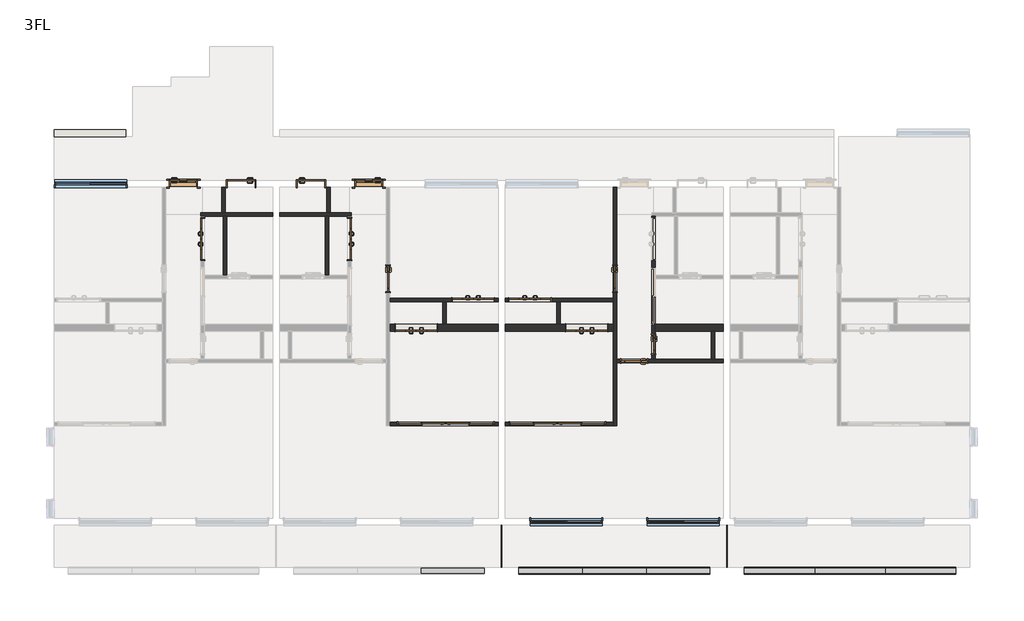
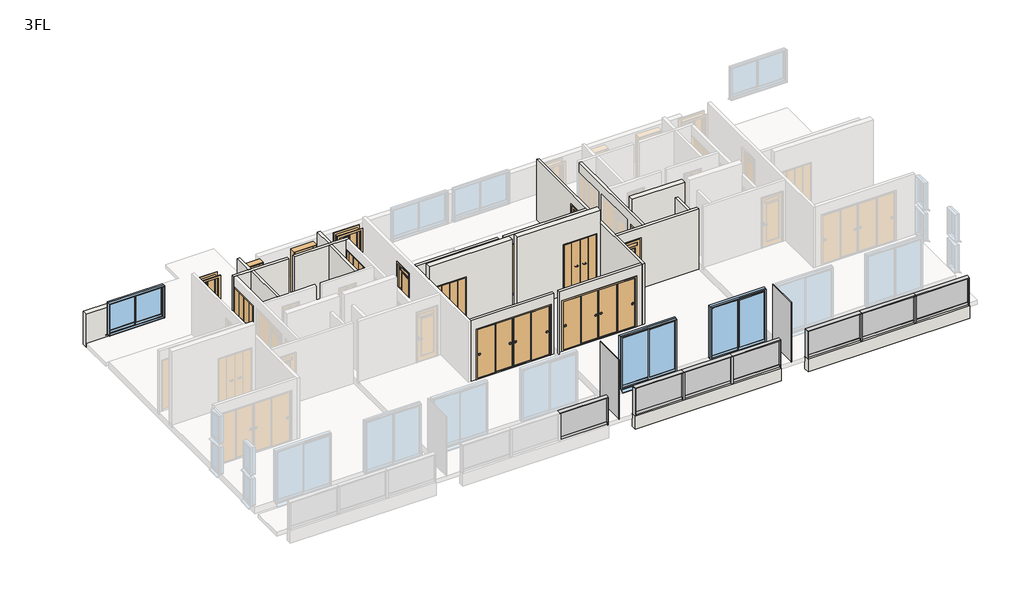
# One storey, part 2 of 3: 22 walls, 16 doors, 16 members, 9 plates, 3 windows.
"""IFC4 building model written with IfcOpenShell, lengths in millimetres."""

from ifc_helpers import new_model, si_unit, frame, origin, place, context, project, spatial, polyline, outline, extrude, faceted_brep, transform, mapped, element, save
from components import door_800x2000_a7d1584b, door_800x2000_010bfebf, w1200h2000_6a144d60, w1200h2000_98cacc9b, w1200h2000_99d19fb3, w1200h2000_ebe1d490, w2800h2000_670b855b, w2800h2000_04aa64cd, w600h2000_7f2747f4, w800h2000_1d97c4d4, w800h2000_13e9f519, w800h2000_ccb03061, w800h2000_0ab7d42c, member_25x150_3f8205e2, member_25x150_f694351b, member_25x150_e95393f9, member_70x150_851c8a9b, plate_9f48129f, plate_365944b3, plate_b830f844, plate_2f85ae4c, plate_cef4847d, window_2000x1200_fc91d1cf, window_2000x2000_f1ff98da

model = new_model("IFC4")

# Units and contexts
model_context = context("Model", 3, world=origin())
ifc_project = project(units=[si_unit("LENGTHUNIT", "METRE", prefix="MILLI")], contexts=[model_context])

# Site, building, storey
site = spatial("IfcSite", under=ifc_project)
building = spatial("IfcBuilding", under=site)
storey = spatial("IfcBuildingStorey", under=building, Name="3FL", Elevation=7000.0)

# Doors
placement = place(None, origin())
door_800x2000_shape = door_800x2000_a7d1584b(model_context)
element("IfcDoor", 1, ObjectType="片開き3 : 800x2000", at=placement, inside=storey, context=model_context, shape_type="MappedRepresentation", body=[
    mapped(door_800x2000_shape, transform((-7378.7187246, -5700.1171638, 7000.0), x_axis=(1.0, 0.0, 0.0), y_axis=(0.0, 1.0, 0.0), z_axis=(0.0, 0.0, 1.0))),
])
door_800x2000_2_shape = door_800x2000_010bfebf(model_context)
element("IfcDoor", 2, ObjectType="片開き3 : 800x2000", at=placement, inside=storey, context=model_context, shape_type="MappedRepresentation", body=[
    mapped(door_800x2000_2_shape, transform((-2078.7187246, -5700.1171638, 7000.0), x_axis=(-1.0, 0.0, 0.0), y_axis=(0.0, -1.0, 0.0), z_axis=(0.0, 0.0, 1.0))),
])
w1200h2000_shape = w1200h2000_6a144d60(model_context)
element("IfcDoor", 3, ObjectType="木製折戸 : w1200h2000", at=placement, inside=storey, context=model_context, shape_type="MappedRepresentation", body=[
    mapped(w1200h2000_shape, transform((-6828.7187246, -7280.1171638, 7100.0), x_axis=(0.0, 1.0, 0.0), y_axis=(-1.0, 0.0, 0.0), z_axis=(0.0, 0.0, 1.0))),
])
element("IfcDoor", 4, ObjectType="木製折戸 : w1200h2000", at=placement, inside=storey, context=model_context, shape_type="MappedRepresentation", body=[
    mapped(w1200h2000_shape, transform((2533.7812754, -9020.1171638, 7100.0), x_axis=(1.0, 0.0, 0.0), y_axis=(0.0, 1.0, 0.0), z_axis=(0.0, 0.0, 1.0))),
])
w1200h2000_2_shape = w1200h2000_98cacc9b(model_context)
element("IfcDoor", 5, ObjectType="木製折戸 : w1200h2000", at=placement, inside=storey, context=model_context, shape_type="MappedRepresentation", body=[
    mapped(w1200h2000_2_shape, transform((4158.7812754, -9820.1171638, 7100.0), x_axis=(-1.0, 0.0, 0.0), y_axis=(0.0, -1.0, 0.0), z_axis=(0.0, 0.0, 1.0))),
])
w1200h2000_3_shape = w1200h2000_99d19fb3(model_context)
element("IfcDoor", 6, ObjectType="木製折戸 : w1200h2000", at=placement, inside=storey, context=model_context, shape_type="MappedRepresentation", body=[
    mapped(w1200h2000_3_shape, transform((908.7812754, -9020.1171638, 7100.0), x_axis=(-1.0, 0.0, 0.0), y_axis=(0.0, -1.0, 0.0), z_axis=(0.0, 0.0, 1.0))),
])
element("IfcDoor", 7, ObjectType="木製折戸 : w1200h2000", at=placement, inside=storey, context=model_context, shape_type="MappedRepresentation", body=[
    mapped(w1200h2000_3_shape, transform((-2628.7187246, -7280.1171638, 7100.0), x_axis=(0.0, 1.0, 0.0), y_axis=(-1.0, 0.0, 0.0), z_axis=(0.0, 0.0, 1.0))),
])
w1200h2000_4_shape = w1200h2000_ebe1d490(model_context)
element("IfcDoor", 8, ObjectType="木製折戸 : w1200h2000", at=placement, inside=storey, context=model_context, shape_type="MappedRepresentation", body=[
    mapped(w1200h2000_4_shape, transform((-716.2187246, -9820.1171638, 7100.0), x_axis=(1.0, 0.0, 0.0), y_axis=(0.0, 1.0, 0.0), z_axis=(0.0, 0.0, 1.0))),
])
w2800h2000_shape = w2800h2000_670b855b(model_context)
element("IfcDoor", 9, ObjectType="引違い 4 枚 2 溝_襖 : w2800h2000", at=placement, inside=storey, context=model_context, shape_type="MappedRepresentation", body=[
    mapped(w2800h2000_shape, transform((3315.7457714, -12570.1171638, 7100.0), x_axis=(-1.0, 0.0, 0.0), y_axis=(0.0, -1.0, 0.0), z_axis=(0.0, 0.0, 1.0))),
])
w2800h2000_2_shape = w2800h2000_04aa64cd(model_context)
element("IfcDoor", 10, ObjectType="引違い 4 枚 2 溝_襖 : w2800h2000", at=placement, inside=storey, context=model_context, shape_type="MappedRepresentation", body=[
    mapped(w2800h2000_2_shape, transform((126.8167793, -12570.1171638, 7100.0), x_axis=(1.0, 0.0, 0.0), y_axis=(0.0, 1.0, 0.0), z_axis=(0.0, 0.0, 1.0))),
])
w600h2000_shape = w600h2000_7f2747f4(model_context)
element("IfcDoor", 11, ObjectType="片開戸CL2058 : w600h2000", at=placement, inside=storey, context=model_context, shape_type="MappedRepresentation", body=[
    mapped(w600h2000_shape, transform((6071.2812754, -10295.1171638, 7100.0), x_axis=(0.0, -1.0, 0.0), y_axis=(1.0, 0.0, 0.0), z_axis=(0.0, 0.0, 1.0))),
])
w800h2000_shape = w800h2000_1d97c4d4(model_context)
element("IfcDoor", 12, ObjectType="片開 : w800h2000", at=placement, inside=storey, context=model_context, shape_type="MappedRepresentation", body=[
    mapped(w800h2000_shape, transform((-5728.7187246, -5700.1171638, 7000.0), x_axis=(-1.0, 0.0, 0.0), y_axis=(0.0, -1.0, 0.0), z_axis=(0.0, 0.0, 1.0))),
])
w800h2000_2_shape = w800h2000_13e9f519(model_context)
element("IfcDoor", 13, ObjectType="片開戸CL2058 : w800h2000", at=placement, inside=storey, context=model_context, shape_type="MappedRepresentation", body=[
    mapped(w800h2000_2_shape, transform((4971.2812754, -8420.1171638, 7100.0), x_axis=(0.0, -1.0, 0.0), y_axis=(1.0, 0.0, 0.0), z_axis=(0.0, 0.0, 1.0))),
])
w800h2000_3_shape = w800h2000_ccb03061(model_context)
element("IfcDoor", 14, ObjectType="片開戸CL2058 : w800h2000", at=placement, inside=storey, context=model_context, shape_type="MappedRepresentation", body=[
    mapped(w800h2000_3_shape, transform((-1528.7187246, -8420.1171638, 7100.0), x_axis=(0.0, -1.0, 0.0), y_axis=(1.0, 0.0, 0.0), z_axis=(0.0, 0.0, 1.0))),
])
element("IfcDoor", 15, ObjectType="片開戸CL2058 : w800h2000", at=placement, inside=storey, context=model_context, shape_type="MappedRepresentation", body=[
    mapped(w800h2000_3_shape, transform((5521.2812754, -10770.1171638, 7100.0), x_axis=(-1.0, 0.0, 0.0), y_axis=(0.0, -1.0, 0.0), z_axis=(0.0, 0.0, 1.0))),
])
w800h2000_4_shape = w800h2000_0ab7d42c(model_context)
element("IfcDoor", 16, ObjectType="片開 : w800h2000", at=placement, inside=storey, context=model_context, shape_type="MappedRepresentation", body=[
    mapped(w800h2000_4_shape, transform((-3728.7187246, -5700.1171638, 7000.0), x_axis=(1.0, 0.0, 0.0), y_axis=(0.0, 1.0, 0.0), z_axis=(0.0, 0.0, 1.0))),
])

# Members
member_25x150_shape = member_25x150_3f8205e2(model_context)
element("IfcMember", 17, ObjectType="長方形のマリオン : 25x150", at=placement, inside=storey, context=model_context, shape_type="MappedRepresentation", body=[
    mapped(member_25x150_shape, transform((1221.2812754, -16770.1171638, 7000.0), x_axis=(1.0, 0.0, 0.0), y_axis=(0.0, -1.0, 0.0), z_axis=(0.0, 0.0, -1.0))),
])
element("IfcMember", 18, ObjectType="長方形のマリオン : 25x150", at=placement, inside=storey, context=model_context, shape_type="MappedRepresentation", body=[
    mapped(member_25x150_shape, transform((7671.2812754, -16770.1171638, 7000.0), x_axis=(1.0, 0.0, 0.0), y_axis=(0.0, -1.0, 0.0), z_axis=(0.0, 0.0, -1.0))),
])
element("IfcMember", 19, ObjectType="長方形のマリオン : 25x150", at=placement, inside=storey, context=model_context, shape_type="MappedRepresentation", body=[
    mapped(member_25x150_shape, transform((14721.2812754, -16770.1171638, 7000.0), x_axis=(1.0, 0.0, 0.0), y_axis=(0.0, -1.0, 0.0), z_axis=(0.0, 0.0, -1.0))),
])
element("IfcMember", 20, ObjectType="長方形のマリオン : 25x150", at=placement, inside=storey, context=model_context, shape_type="MappedRepresentation", body=[
    mapped(member_25x150_shape, transform((2221.2812754, -16770.1171638, 8075.0), x_axis=(-1.0, 0.0, 0.0), y_axis=(0.0, -1.0, 0.0), z_axis=(0.0, 0.0, 1.0))),
])
element("IfcMember", 21, ObjectType="長方形のマリオン : 25x150", at=placement, inside=storey, context=model_context, shape_type="MappedRepresentation", body=[
    mapped(member_25x150_shape, transform((8671.2812754, -16770.1171638, 8075.0), x_axis=(-1.0, 0.0, 0.0), y_axis=(0.0, -1.0, 0.0), z_axis=(0.0, 0.0, 1.0))),
])
member_25x150_2_shape = member_25x150_f694351b(model_context)
element("IfcMember", 22, ObjectType="長方形のマリオン : 25x150", at=placement, inside=storey, context=model_context, shape_type="MappedRepresentation", body=[
    mapped(member_25x150_2_shape, transform((1221.2812754, -16770.1171638, 8100.0), x_axis=(0.0, 0.0, 1.0), y_axis=(0.0, -1.0, 0.0), z_axis=(1.0, 0.0, 0.0))),
])
element("IfcMember", 23, ObjectType="長方形のマリオン : 25x150", at=placement, inside=storey, context=model_context, shape_type="MappedRepresentation", body=[
    mapped(member_25x150_2_shape, transform((7671.2812754, -16770.1171638, 8100.0), x_axis=(0.0, 0.0, 1.0), y_axis=(0.0, -1.0, 0.0), z_axis=(1.0, 0.0, 0.0))),
])
element("IfcMember", 24, ObjectType="長方形のマリオン : 25x150", at=placement, inside=storey, context=model_context, shape_type="MappedRepresentation", body=[
    mapped(member_25x150_2_shape, transform((4037.947942, -16770.1171638, 8100.0), x_axis=(0.0, 0.0, 1.0), y_axis=(0.0, -1.0, 0.0), z_axis=(1.0, 0.0, 0.0))),
])
element("IfcMember", 25, ObjectType="長方形のマリオン : 25x150", at=placement, inside=storey, context=model_context, shape_type="MappedRepresentation", body=[
    mapped(member_25x150_2_shape, transform((5854.6146087, -16770.1171638, 8100.0), x_axis=(0.0, 0.0, 1.0), y_axis=(0.0, -1.0, 0.0), z_axis=(1.0, 0.0, 0.0))),
])
member_25x150_3_shape = member_25x150_e95393f9(model_context)
element("IfcMember", 26, ObjectType="長方形のマリオン : 25x150", at=placement, inside=storey, context=model_context, shape_type="MappedRepresentation", body=[
    mapped(member_25x150_3_shape, transform((14721.2812754, -16770.1171638, 8100.0), x_axis=(0.0, 0.0, 1.0), y_axis=(0.0, -1.0, 0.0), z_axis=(1.0, 0.0, 0.0))),
])
element("IfcMember", 27, ObjectType="長方形のマリオン : 25x150", at=placement, inside=storey, context=model_context, shape_type="MappedRepresentation", body=[
    mapped(member_25x150_3_shape, transform((10687.947942, -16770.1171638, 8100.0), x_axis=(0.0, 0.0, 1.0), y_axis=(0.0, -1.0, 0.0), z_axis=(1.0, 0.0, 0.0))),
])
element("IfcMember", 28, ObjectType="長方形のマリオン : 25x150", at=placement, inside=storey, context=model_context, shape_type="MappedRepresentation", body=[
    mapped(member_25x150_3_shape, transform((12704.6146087, -16770.1171638, 8100.0), x_axis=(0.0, 0.0, 1.0), y_axis=(0.0, -1.0, 0.0), z_axis=(1.0, 0.0, 0.0))),
])
member_70x150_shape = member_70x150_851c8a9b(model_context)
element("IfcMember", 29, ObjectType="長方形のマリオン : 70x150", at=placement, inside=storey, context=model_context, shape_type="MappedRepresentation", body=[
    mapped(member_70x150_shape, transform((4037.947942, -16770.1171638, 7000.0), x_axis=(1.0, 0.0, 0.0), y_axis=(0.0, -1.0, 0.0), z_axis=(0.0, 0.0, -1.0))),
])
element("IfcMember", 30, ObjectType="長方形のマリオン : 70x150", at=placement, inside=storey, context=model_context, shape_type="MappedRepresentation", body=[
    mapped(member_70x150_shape, transform((5854.6146087, -16770.1171638, 7000.0), x_axis=(1.0, 0.0, 0.0), y_axis=(0.0, -1.0, 0.0), z_axis=(0.0, 0.0, -1.0))),
])
element("IfcMember", 31, ObjectType="長方形のマリオン : 70x150", at=placement, inside=storey, context=model_context, shape_type="MappedRepresentation", body=[
    mapped(member_70x150_shape, transform((10687.947942, -16770.1171638, 7000.0), x_axis=(1.0, 0.0, 0.0), y_axis=(0.0, -1.0, 0.0), z_axis=(0.0, 0.0, -1.0))),
])
element("IfcMember", 32, ObjectType="長方形のマリオン : 70x150", at=placement, inside=storey, context=model_context, shape_type="MappedRepresentation", body=[
    mapped(member_70x150_shape, transform((12704.6146087, -16770.1171638, 7000.0), x_axis=(1.0, 0.0, 0.0), y_axis=(0.0, -1.0, 0.0), z_axis=(0.0, 0.0, -1.0))),
])

# Plates
plate_shape = plate_9f48129f(model_context)
element("IfcPlate", 33, ObjectType="r パネル FIX 下框付 : 框 H100", at=placement, inside=storey, context=model_context, shape_type="MappedRepresentation", body=[
    mapped(plate_shape, transform((317.947942, -16770.1171638, 7000.0), x_axis=(1.0, 0.0, 0.0), y_axis=(0.0, 1.0, 0.0), z_axis=(0.0, 0.0, 1.0))),
])
element("IfcPlate", 34, ObjectType="r パネル FIX 下框付 : 框 H100", at=placement, inside=storey, context=model_context, shape_type="MappedRepresentation", body=[
    mapped(plate_shape, transform((3124.6146087, -16770.1171638, 7000.0), x_axis=(1.0, 0.0, 0.0), y_axis=(0.0, 1.0, 0.0), z_axis=(0.0, 0.0, 1.0))),
])
element("IfcPlate", 35, ObjectType="r パネル FIX 下框付 : 框 H100", at=placement, inside=storey, context=model_context, shape_type="MappedRepresentation", body=[
    mapped(plate_shape, transform((6767.947942, -16770.1171638, 7000.0), x_axis=(1.0, 0.0, 0.0), y_axis=(0.0, 1.0, 0.0), z_axis=(0.0, 0.0, 1.0))),
])
plate_2_shape = plate_365944b3(model_context)
element("IfcPlate", 36, ObjectType="r パネル FIX 下框付 : 框 H100", at=placement, inside=storey, context=model_context, shape_type="MappedRepresentation", body=[
    mapped(plate_2_shape, transform((4946.2812754, -16770.1171638, 7000.0), x_axis=(1.0, 0.0, 0.0), y_axis=(0.0, 1.0, 0.0), z_axis=(0.0, 0.0, 1.0))),
])
plate_3_shape = plate_b830f844(model_context)
element("IfcPlate", 37, ObjectType="r パネル FIX 下框付 : 框 H100", at=placement, inside=storey, context=model_context, shape_type="MappedRepresentation", body=[
    mapped(plate_3_shape, transform((9674.6146087, -16770.1171638, 7000.0), x_axis=(1.0, 0.0, 0.0), y_axis=(0.0, 1.0, 0.0), z_axis=(0.0, 0.0, 1.0))),
])
element("IfcPlate", 38, ObjectType="r パネル FIX 下框付 : 框 H100", at=placement, inside=storey, context=model_context, shape_type="MappedRepresentation", body=[
    mapped(plate_3_shape, transform((13717.947942, -16770.1171638, 7000.0), x_axis=(1.0, 0.0, 0.0), y_axis=(0.0, 1.0, 0.0), z_axis=(0.0, 0.0, 1.0))),
])
plate_4_shape = plate_2f85ae4c(model_context)
element("IfcPlate", 39, ObjectType="r パネル FIX 下框付 : 框 H100", at=placement, inside=storey, context=model_context, shape_type="MappedRepresentation", body=[
    mapped(plate_4_shape, transform((11696.2812754, -16770.1171638, 7000.0), x_axis=(1.0, 0.0, 0.0), y_axis=(0.0, 1.0, 0.0), z_axis=(0.0, 0.0, 1.0))),
])
plate_5_shape = plate_cef4847d(model_context)
element("IfcPlate", 40, ObjectType="システム パネル : 標準", at=placement, inside=storey, context=model_context, shape_type="MappedRepresentation", body=[
    mapped(plate_5_shape, transform((1721.2812754, -16070.1171638, 6950.0), x_axis=(0.0, -1.0, 0.0), y_axis=(1.0, 0.0, 0.0), z_axis=(0.0, 0.0, 1.0))),
])
element("IfcPlate", 41, ObjectType="システム パネル : 標準", at=placement, inside=storey, context=model_context, shape_type="MappedRepresentation", body=[
    mapped(plate_5_shape, transform((8171.2812754, -16070.1171638, 6950.0), x_axis=(0.0, -1.0, 0.0), y_axis=(1.0, 0.0, 0.0), z_axis=(0.0, 0.0, 1.0))),
])

# Walls
element("IfcWall", 42, ObjectType="(R)RC200", at=placement, inside=storey, context=model_context, shape_type="Brep", body=[
    faceted_brep([(1621.2812754, -9720.1171638, 7000.0), (146.2812754, -9720.1171638, 7000.0), (46.2812754, -9720.1171638, 7000.0), (-1478.7187246, -9720.1171638, 7000.0), (-1478.7187246, -9720.1171638, 10000.0), (1621.2812754, -9720.1171638, 10000.0), (-96.2187246, -9720.1171638, 9120.0), (-1336.2187246, -9720.1171638, 9120.0), (-1336.2187246, -9720.1171638, 7100.0), (-96.2187246, -9720.1171638, 7100.0), (1621.2812754, -9920.1171638, 7000.0), (1621.2812754, -9920.1171638, 10000.0), (-1478.7187246, -9920.1171638, 10000.0), (-1478.7187246, -9920.1171638, 7000.0), (-96.2187246, -9920.1171638, 9120.0), (-96.2187246, -9920.1171638, 7100.0), (-1336.2187246, -9920.1171638, 7100.0), (-1336.2187246, -9920.1171638, 9120.0)], [[[0, 1, 2, 3, 4, 5], [6, 7, 8, 9]], [[10, 11, 12, 13], [14, 15, 16, 17]], [[3, 2, 1, 0, 10, 13]], [[5, 4, 12, 11]], [[4, 3, 13, 12]], [[15, 14, 6, 9]], [[16, 15, 9, 8]], [[17, 16, 8, 7]], [[14, 17, 7, 6]], [[0, 5, 11, 10]]]),
])
element("IfcWall", 43, ObjectType="(R)RC200", at=placement, inside=storey, context=model_context, shape_type="Brep", body=[
    faceted_brep([(1821.2812754, -9920.1171638, 7000.0), (4921.2812754, -9920.1171638, 7000.0), (4921.2812754, -9920.1171638, 10000.0), (1821.2812754, -9920.1171638, 10000.0), (3538.7812754, -9920.1171638, 9120.0), (4778.7812754, -9920.1171638, 9120.0), (4778.7812754, -9920.1171638, 7100.0), (3538.7812754, -9920.1171638, 7100.0), (1821.2812754, -9720.1171638, 7000.0), (1821.2812754, -9720.1171638, 10000.0), (4921.2812754, -9720.1171638, 10000.0), (4921.2812754, -9720.1171638, 7000.0), (3396.2812754, -9720.1171638, 7000.0), (3296.2812754, -9720.1171638, 7000.0), (3538.7812754, -9720.1171638, 9120.0), (3538.7812754, -9720.1171638, 7100.0), (4778.7812754, -9720.1171638, 7100.0), (4778.7812754, -9720.1171638, 9120.0)], [[[0, 1, 2, 3], [4, 5, 6, 7]], [[8, 9, 10, 11, 12, 13], [14, 15, 16, 17]], [[1, 0, 8, 13, 12, 11]], [[3, 2, 10, 9]], [[2, 1, 11, 10]], [[15, 14, 4, 7]], [[16, 15, 7, 6]], [[17, 16, 6, 5]], [[14, 17, 5, 4]], [[0, 3, 9, 8]]]),
])
element("IfcWall", 44, ObjectType="(R)RC200", at=placement, inside=storey, context=model_context, shape_type="Brep", body=[
    faceted_brep([(6121.2812754, -9920.1171638, 7000.0), (7721.2812754, -9920.1171638, 7000.0), (7821.2812754, -9920.1171638, 7000.0), (8071.2812754, -9920.1171638, 7000.0), (8071.2812754, -9920.1171638, 10000.0), (6121.2812754, -9920.1171638, 10000.0), (6121.2812754, -9720.1171638, 7000.0), (6121.2812754, -9720.1171638, 10000.0), (8071.2812754, -9720.1171638, 10000.0), (8071.2812754, -9720.1171638, 7000.0)], [[[0, 1, 2, 3, 4, 5]], [[6, 7, 8, 9]], [[3, 2, 1, 0, 6, 9]], [[5, 4, 8, 7]], [[0, 5, 7, 6]], [[4, 3, 9, 8]]]),
])
element("IfcWall", 45, ObjectType="(R)RC200", at=placement, inside=storey, context=model_context, shape_type="SweptSolid", body=[
    extrude(outline(polyline([(-9028.7187246, -4350.1171638), (-11078.7187246, -4350.1171638), (-11078.7187246, -4150.1171638), (-9028.7187246, -4150.1171638), (-9028.7187246, -4350.1171638)])), frame((0.0, 0.0, 6800.0), z_axis=(0.0, 0.0, 1.0), x_axis=(1.0, 0.0, 0.0)), (0.0, 0.0, 1.0), 1300.0),
])
element("IfcWall", 46, ObjectType="(R)RC200", at=placement, inside=storey, context=model_context, shape_type="SweptSolid", body=[
    extrude(outline(polyline([(7671.2812754, -16870.1171638), (2221.2812754, -16870.1171638), (2221.2812754, -16670.1171638), (7671.2812754, -16670.1171638), (7671.2812754, -16870.1171638)])), frame((0.0, 0.0, 6500.0), z_axis=(0.0, 0.0, 1.0), x_axis=(1.0, 0.0, 0.0)), (0.0, 0.0, 1.0), 500.0),
])
element("IfcWall", 47, ObjectType="(R)RC200", at=placement, inside=storey, context=model_context, shape_type="SweptSolid", body=[
    extrude(outline(polyline([(14721.2812754, -16870.1171638), (8671.2812754, -16870.1171638), (8671.2812754, -16670.1171638), (14721.2812754, -16670.1171638), (14721.2812754, -16870.1171638)])), frame((0.0, 0.0, 6500.0), z_axis=(0.0, 0.0, 1.0), x_axis=(1.0, 0.0, 0.0)), (0.0, 0.0, 1.0), 500.0),
])
element("IfcWall", 48, ObjectType="(L1)LGS100", at=placement, inside=storey, context=model_context, shape_type="Brep", body=[
    faceted_brep([(-6878.7187246, -6630.1171638, 7000.0), (-6778.7187246, -6630.1171638, 7000.0), (-6238.7187246, -6630.1171638, 7000.0), (-6138.7187246, -6630.1171638, 7000.0), (-4828.7187246, -6630.1171638, 7000.0), (-4828.7187246, -6630.1171638, 9500.0), (-6138.7187246, -6630.1171638, 9500.0), (-6238.7187246, -6630.1171638, 9500.0), (-6778.7187246, -6630.1171638, 9500.0), (-6878.7187246, -6630.1171638, 9500.0), (-6878.7187246, -6530.1171638, 7000.0), (-6878.7187246, -6530.1171638, 9500.0), (-6278.7187246, -6530.1171638, 9500.0), (-6178.7187246, -6530.1171638, 9500.0), (-4828.7187246, -6530.1171638, 9500.0), (-4828.7187246, -6530.1171638, 7000.0), (-6178.7187246, -6530.1171638, 7000.0), (-6278.7187246, -6530.1171638, 7000.0)], [[[0, 1, 2, 3, 4, 5, 6, 7, 8, 9]], [[10, 11, 12, 13, 14, 15, 16, 17]], [[4, 3, 2, 1, 0, 10, 17, 16, 15]], [[9, 8, 7, 6, 5, 14, 13, 12, 11]], [[0, 9, 11, 10]], [[5, 4, 15, 14]]]),
])
element("IfcWall", 49, ObjectType="(L1)LGS100", at=placement, inside=storey, context=model_context, shape_type="SweptSolid", body=[
    extrude(outline(polyline([(-6178.7187246, -5800.1171638), (-6178.7187246, -6530.1171638), (-6278.7187246, -6530.1171638), (-6278.7187246, -5800.1171638), (-6178.7187246, -5800.1171638)])), frame((0.0, 0.0, 7000.0), z_axis=(0.0, 0.0, 1.0), x_axis=(1.0, 0.0, 0.0)), (0.0, 0.0, 1.0), 2500.0),
])
element("IfcWall", 50, ObjectType="(L1)LGS100", at=placement, inside=storey, context=model_context, shape_type="SweptSolid", body=[
    extrude(outline(polyline([(-6138.7187246, -6630.1171638), (-6138.7187246, -8320.1171638), (-6238.7187246, -8320.1171638), (-6238.7187246, -6630.1171638), (-6138.7187246, -6630.1171638)])), frame((0.0, 0.0, 7000.0), z_axis=(0.0, 0.0, 1.0), x_axis=(1.0, 0.0, 0.0)), (0.0, 0.0, 1.0), 2500.0),
])
element("IfcWall", 51, ObjectType="(L1)LGS100", at=placement, inside=storey, context=model_context, shape_type="Brep", body=[
    faceted_brep([(1621.2812754, -8970.1171638, 7000.0), (-1478.7187246, -8970.1171638, 7000.0), (-1478.7187246, -8970.1171638, 9500.0), (1621.2812754, -8970.1171638, 9500.0), (288.7812754, -8970.1171638, 9120.0), (288.7812754, -8970.1171638, 7100.0), (1528.7812754, -8970.1171638, 7100.0), (1528.7812754, -8970.1171638, 9120.0), (-1478.7187246, -9070.1171638, 7000.0), (46.2812754, -9070.1171638, 7000.0), (146.2812754, -9070.1171638, 7000.0), (1621.2812754, -9070.1171638, 7000.0), (1621.2812754, -9070.1171638, 9500.0), (146.2812754, -9070.1171638, 9500.0), (46.2812754, -9070.1171638, 9500.0), (-1478.7187246, -9070.1171638, 9500.0), (288.7812754, -9070.1171638, 7100.0), (288.7812754, -9070.1171638, 9120.0), (1528.7812754, -9070.1171638, 9120.0), (1528.7812754, -9070.1171638, 7100.0)], [[[0, 1, 2, 3], [4, 5, 6, 7]], [[8, 9, 10, 11, 12, 13, 14, 15], [16, 17, 18, 19]], [[1, 0, 11, 10, 9, 8]], [[3, 2, 15, 14, 13, 12]], [[2, 1, 8, 15]], [[4, 17, 16, 5]], [[5, 16, 19, 6]], [[17, 4, 7, 18]], [[18, 7, 6, 19]], [[0, 3, 12, 11]]]),
])
element("IfcWall", 52, ObjectType="(L1)LGS100", at=placement, inside=storey, context=model_context, shape_type="SweptSolid", body=[
    extrude(outline(polyline([(146.2812754, -9070.1171638), (146.2812754, -9720.1171638), (46.2812754, -9720.1171638), (46.2812754, -9070.1171638), (146.2812754, -9070.1171638)])), frame((0.0, 0.0, 7000.0), z_axis=(0.0, 0.0, 1.0), x_axis=(1.0, 0.0, 0.0)), (0.0, 0.0, 1.0), 2500.0),
])
element("IfcWall", 53, ObjectType="(L1)LGS100", at=placement, inside=storey, context=model_context, shape_type="Brep", body=[
    faceted_brep([(-2578.7187246, -6530.1171638, 7000.0), (-3178.7187246, -6530.1171638, 7000.0), (-3278.7187246, -6530.1171638, 7000.0), (-4628.7187246, -6530.1171638, 7000.0), (-4628.7187246, -6530.1171638, 9500.0), (-3278.7187246, -6530.1171638, 9500.0), (-3178.7187246, -6530.1171638, 9500.0), (-2578.7187246, -6530.1171638, 9500.0), (-2578.7187246, -6630.1171638, 7000.0), (-2578.7187246, -6630.1171638, 9500.0), (-2678.7187246, -6630.1171638, 9500.0), (-3218.7187246, -6630.1171638, 9500.0), (-3318.7187246, -6630.1171638, 9500.0), (-4628.7187246, -6630.1171638, 9500.0), (-4628.7187246, -6630.1171638, 7000.0), (-3318.7187246, -6630.1171638, 7000.0), (-3218.7187246, -6630.1171638, 7000.0), (-2678.7187246, -6630.1171638, 7000.0)], [[[0, 1, 2, 3, 4, 5, 6, 7]], [[8, 9, 10, 11, 12, 13, 14, 15, 16, 17]], [[3, 2, 1, 0, 8, 17, 16, 15, 14]], [[7, 6, 5, 4, 13, 12, 11, 10, 9]], [[0, 7, 9, 8]], [[4, 3, 14, 13]]]),
])
element("IfcWall", 54, ObjectType="(L1)LGS100", at=placement, inside=storey, context=model_context, shape_type="SweptSolid", body=[
    extrude(outline(polyline([(-3178.7187246, -5800.1171638), (-3178.7187246, -6530.1171638), (-3278.7187246, -6530.1171638), (-3278.7187246, -5800.1171638), (-3178.7187246, -5800.1171638)])), frame((0.0, 0.0, 7000.0), z_axis=(0.0, 0.0, 1.0), x_axis=(1.0, 0.0, 0.0)), (0.0, 0.0, 1.0), 2500.0),
])
element("IfcWall", 55, ObjectType="(L1)LGS100", at=placement, inside=storey, context=model_context, shape_type="SweptSolid", body=[
    extrude(outline(polyline([(-3218.7187246, -6630.1171638), (-3218.7187246, -8320.1171638), (-3318.7187246, -8320.1171638), (-3318.7187246, -6630.1171638), (-3218.7187246, -6630.1171638)])), frame((0.0, 0.0, 7000.0), z_axis=(0.0, 0.0, 1.0), x_axis=(1.0, 0.0, 0.0)), (0.0, 0.0, 1.0), 2500.0),
])
element("IfcWall", 56, ObjectType="(L1)LGS100", at=placement, inside=storey, context=model_context, shape_type="SweptSolid", body=[
    extrude(outline(polyline([(7000.0, 1621.2812754), (9500.0, 1621.2812754), (9500.0, -1478.7187246), (7000.0, -1478.7187246), (7000.0, 1621.2812754)]), holes=[polyline([(9100.0, 1521.2812754), (7100.0, 1521.2812754), (7100.0, -1278.7187246), (9100.0, -1278.7187246), (9100.0, 1521.2812754)])]), frame((0.0, -12620.1171638, 0.0), z_axis=(0.0, 1.0, 0.0), x_axis=(0.0, 0.0, 1.0)), (0.0, 0.0, 1.0), 100.0),
])
element("IfcWall", 57, ObjectType="(L1)LGS100", at=placement, inside=storey, context=model_context, shape_type="Brep", body=[
    faceted_brep([(1821.2812754, -9070.1171638, 7000.0), (3296.2812754, -9070.1171638, 7000.0), (3396.2812754, -9070.1171638, 7000.0), (4921.2812754, -9070.1171638, 7000.0), (4921.2812754, -9070.1171638, 9500.0), (3396.2812754, -9070.1171638, 9500.0), (3296.2812754, -9070.1171638, 9500.0), (1821.2812754, -9070.1171638, 9500.0), (3153.7812754, -9070.1171638, 9120.0), (3153.7812754, -9070.1171638, 7100.0), (1913.7812754, -9070.1171638, 7100.0), (1913.7812754, -9070.1171638, 9120.0), (4921.2812754, -8970.1171638, 7000.0), (1821.2812754, -8970.1171638, 7000.0), (1821.2812754, -8970.1171638, 9500.0), (4921.2812754, -8970.1171638, 9500.0), (3153.7812754, -8970.1171638, 7100.0), (3153.7812754, -8970.1171638, 9120.0), (1913.7812754, -8970.1171638, 9120.0), (1913.7812754, -8970.1171638, 7100.0)], [[[0, 1, 2, 3, 4, 5, 6, 7], [8, 9, 10, 11]], [[12, 13, 14, 15], [16, 17, 18, 19]], [[3, 2, 1, 0, 13, 12]], [[7, 6, 5, 4, 15, 14]], [[4, 3, 12, 15]], [[8, 17, 16, 9]], [[9, 16, 19, 10]], [[17, 8, 11, 18]], [[18, 11, 10, 19]], [[0, 7, 14, 13]]]),
])
element("IfcWall", 58, ObjectType="(L1)LGS100", at=placement, inside=storey, context=model_context, shape_type="SweptSolid", body=[
    extrude(outline(polyline([(3396.2812754, -9070.1171638), (3396.2812754, -9720.1171638), (3296.2812754, -9720.1171638), (3296.2812754, -9070.1171638), (3396.2812754, -9070.1171638)])), frame((0.0, 0.0, 7000.0), z_axis=(0.0, 0.0, 1.0), x_axis=(1.0, 0.0, 0.0)), (0.0, 0.0, 1.0), 2500.0),
])
element("IfcWall", 59, ObjectType="(L1)LGS100", at=placement, inside=storey, context=model_context, shape_type="Brep", body=[
    faceted_brep([(5021.2812754, -12620.1171638, 7000.0), (5021.2812754, -10820.1171638, 7000.0), (5021.2812754, -10720.1171638, 7000.0), (5021.2812754, -5800.1171638, 7000.0), (5021.2812754, -5800.1171638, 9500.0), (5021.2812754, -10720.1171638, 9500.0), (5021.2812754, -10820.1171638, 9500.0), (5021.2812754, -12620.1171638, 9500.0), (5021.2812754, -8820.1171638, 7100.0), (5021.2812754, -8820.1171638, 9100.0), (5021.2812754, -8020.1171638, 9100.0), (5021.2812754, -8020.1171638, 7100.0), (4921.2812754, -12620.1171638, 7000.0), (4921.2812754, -12620.1171638, 9500.0), (4921.2812754, -12520.1171638, 9500.0), (4921.2812754, -9070.1171638, 9500.0), (4921.2812754, -8970.1171638, 9500.0), (4921.2812754, -5800.1171638, 9500.0), (4921.2812754, -5800.1171638, 7000.0), (4921.2812754, -8970.1171638, 7000.0), (4921.2812754, -9070.1171638, 7000.0), (4921.2812754, -9720.1171638, 7000.0), (4921.2812754, -9920.1171638, 7000.0), (4921.2812754, -12520.1171638, 7000.0), (4921.2812754, -8820.1171638, 7100.0), (4921.2812754, -8020.1171638, 7100.0), (4921.2812754, -8020.1171638, 9100.0), (4921.2812754, -8820.1171638, 9100.0)], [[[0, 1, 2, 3, 4, 5, 6, 7], [8, 9, 10, 11]], [[12, 13, 14, 15, 16, 17, 18, 19, 20, 21, 22, 23], [24, 25, 26, 27]], [[3, 2, 1, 0, 12, 23, 22, 21, 20, 19, 18]], [[7, 6, 5, 4, 17, 16, 15, 14, 13]], [[0, 7, 13, 12]], [[9, 8, 24, 27]], [[10, 9, 27, 26]], [[11, 10, 26, 25]], [[8, 11, 25, 24]], [[4, 3, 18, 17]]]),
])
element("IfcWall", 60, ObjectType="(L1)LGS100", at=placement, inside=storey, context=model_context, shape_type="Brep", body=[
    faceted_brep([(6121.2812754, -10720.1171638, 7000.0), (6121.2812754, -9920.1171638, 7000.0), (6121.2812754, -9720.1171638, 7000.0), (6121.2812754, -8420.1171638, 7000.0), (6121.2812754, -8320.1171638, 7000.0), (6121.2812754, -6630.1171638, 7000.0), (6121.2812754, -6630.1171638, 9500.0), (6121.2812754, -8320.1171638, 9500.0), (6121.2812754, -8420.1171638, 9500.0), (6121.2812754, -10720.1171638, 9500.0), (6121.2812754, -10595.1171638, 7100.0), (6121.2812754, -10595.1171638, 9100.0), (6121.2812754, -9995.1171638, 9100.0), (6121.2812754, -9995.1171638, 7100.0), (6121.2812754, -6660.1171638, 7100.0), (6121.2812754, -7900.1171638, 7100.0), (6121.2812754, -7900.1171638, 9120.0), (6121.2812754, -6660.1171638, 9120.0), (6121.2812754, -9745.1171638, 7100.0), (6121.2812754, -9745.1171638, 9140.0), (6121.2812754, -8095.1171638, 9140.0), (6121.2812754, -8095.1171638, 7100.0), (6021.2812754, -6630.1171638, 7000.0), (6021.2812754, -10720.1171638, 7000.0), (6021.2812754, -10720.1171638, 9500.0), (6021.2812754, -6630.1171638, 9500.0), (6021.2812754, -10595.1171638, 7100.0), (6021.2812754, -9995.1171638, 7100.0), (6021.2812754, -9995.1171638, 9100.0), (6021.2812754, -10595.1171638, 9100.0), (6021.2812754, -7900.1171638, 7100.0), (6021.2812754, -6660.1171638, 7100.0), (6021.2812754, -6660.1171638, 9120.0), (6021.2812754, -7900.1171638, 9120.0), (6021.2812754, -9745.1171638, 7100.0), (6021.2812754, -8095.1171638, 7100.0), (6021.2812754, -8095.1171638, 9140.0), (6021.2812754, -9745.1171638, 9140.0)], [[[0, 1, 2, 3, 4, 5, 6, 7, 8, 9], [10, 11, 12, 13], [14, 15, 16, 17], [18, 19, 20, 21]], [[22, 23, 24, 25], [26, 27, 28, 29], [30, 31, 32, 33], [34, 35, 36, 37]], [[5, 4, 3, 2, 1, 0, 23, 22]], [[9, 8, 7, 6, 25, 24]], [[0, 9, 24, 23]], [[11, 10, 26, 29]], [[12, 11, 29, 28]], [[13, 12, 28, 27]], [[10, 13, 27, 26]], [[14, 31, 30, 15]], [[15, 30, 33, 16]], [[16, 33, 32, 17]], [[19, 18, 34, 37]], [[20, 19, 37, 36]], [[21, 20, 36, 35]], [[18, 21, 35, 34]], [[31, 14, 17, 32]], [[6, 5, 22, 25]]]),
])
element("IfcWall", 61, ObjectType="(L1)LGS100", at=placement, inside=storey, context=model_context, shape_type="SweptSolid", body=[
    extrude(outline(polyline([(7821.2812754, -9920.1171638), (7821.2812754, -10720.1171638), (7721.2812754, -10720.1171638), (7721.2812754, -9920.1171638), (7821.2812754, -9920.1171638)])), frame((0.0, 0.0, 7000.0), z_axis=(0.0, 0.0, 1.0), x_axis=(1.0, 0.0, 0.0)), (0.0, 0.0, 1.0), 2500.0),
])
element("IfcWall", 62, ObjectType="(L1)LGS100", at=placement, inside=storey, context=model_context, shape_type="Brep", body=[
    faceted_brep([(5021.2812754, -10820.1171638, 7000.0), (8071.2812754, -10820.1171638, 7000.0), (8071.2812754, -10820.1171638, 9500.0), (5021.2812754, -10820.1171638, 9500.0), (5121.2812754, -10820.1171638, 7100.0), (5121.2812754, -10820.1171638, 9100.0), (5921.2812754, -10820.1171638, 9100.0), (5921.2812754, -10820.1171638, 7100.0), (8071.2812754, -10720.1171638, 7000.0), (7821.2812754, -10720.1171638, 7000.0), (7721.2812754, -10720.1171638, 7000.0), (6121.2812754, -10720.1171638, 7000.0), (6021.2812754, -10720.1171638, 7000.0), (5021.2812754, -10720.1171638, 7000.0), (5021.2812754, -10720.1171638, 9500.0), (6021.2812754, -10720.1171638, 9500.0), (6121.2812754, -10720.1171638, 9500.0), (7721.2812754, -10720.1171638, 9500.0), (7821.2812754, -10720.1171638, 9500.0), (8071.2812754, -10720.1171638, 9500.0), (5121.2812754, -10720.1171638, 9100.0), (5121.2812754, -10720.1171638, 7100.0), (5921.2812754, -10720.1171638, 7100.0), (5921.2812754, -10720.1171638, 9100.0)], [[[0, 1, 2, 3], [4, 5, 6, 7]], [[8, 9, 10, 11, 12, 13, 14, 15, 16, 17, 18, 19], [20, 21, 22, 23]], [[1, 0, 13, 12, 11, 10, 9, 8]], [[3, 2, 19, 18, 17, 16, 15, 14]], [[0, 3, 14, 13]], [[4, 21, 20, 5]], [[5, 20, 23, 6]], [[6, 23, 22, 7]], [[21, 4, 7, 22]], [[2, 1, 8, 19]]]),
])
element("IfcWall", 63, ObjectType="(L1)LGS100", at=placement, inside=storey, context=model_context, shape_type="SweptSolid", body=[
    extrude(outline(polyline([(7000.0, 1821.2812754), (7000.0, 4921.2812754), (9500.0, 4921.2812754), (9500.0, 1821.2812754), (7000.0, 1821.2812754)]), holes=[polyline([(9100.0, 1921.2812754), (9100.0, 4721.2812754), (7100.0, 4721.2812754), (7100.0, 1921.2812754), (9100.0, 1921.2812754)])]), frame((0.0, -12620.1171638, 0.0), z_axis=(0.0, 1.0, 0.0), x_axis=(0.0, 0.0, 1.0)), (0.0, 0.0, 1.0), 100.0),
])

# Windows
window_2000x1200_shape = window_2000x1200_fc91d1cf(model_context)
element("IfcWindow", 64, ObjectType="鋼製_一般枠_引違い-二枚 : 2000x1200", at=placement, inside=storey, context=model_context, shape_type="MappedRepresentation", body=[
    mapped(window_2000x1200_shape, transform((-10028.7187246, -5700.1171638, 7250.0), x_axis=(1.0, 0.0, 0.0), y_axis=(0.0, 1.0, 0.0), z_axis=(0.0, 0.0, 1.0))),
])
window_2000x2000_shape = window_2000x2000_f1ff98da(model_context)
element("IfcWindow", 65, ObjectType="鋼製_一般枠_引違い-二枚 : 2000x2000", at=placement, inside=storey, context=model_context, shape_type="MappedRepresentation", body=[
    mapped(window_2000x2000_shape, transform((3571.2812754, -15370.1171638, 6200.0), x_axis=(-1.0, 0.0, 0.0), y_axis=(0.0, -1.0, 0.0), z_axis=(0.0, 0.0, 1.0))),
])
element("IfcWindow", 66, ObjectType="鋼製_一般枠_引違い-二枚 : 2000x2000", at=placement, inside=storey, context=model_context, shape_type="MappedRepresentation", body=[
    mapped(window_2000x2000_shape, transform((6921.2812754, -15370.1171638, 6200.0), x_axis=(-1.0, 0.0, 0.0), y_axis=(0.0, -1.0, 0.0), z_axis=(0.0, 0.0, 1.0))),
])

save(model, "model.ifc")
